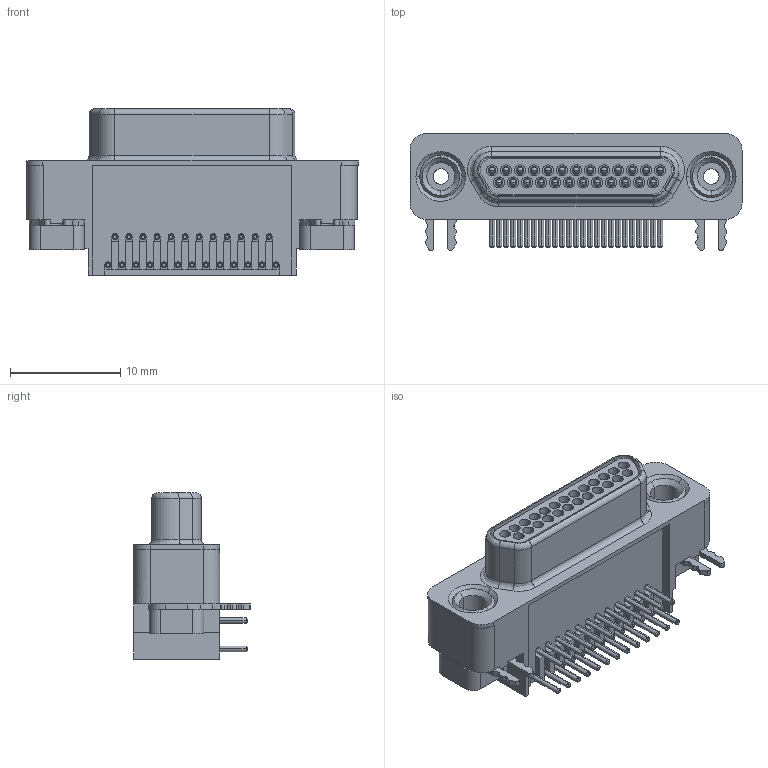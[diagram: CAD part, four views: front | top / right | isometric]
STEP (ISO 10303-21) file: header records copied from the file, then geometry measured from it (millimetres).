
FILE_DESCRIPTION (( 'STEP AP203' ), '1' );
FILE_NAME ('581-M25-113L461.STEP', '2026-05-15T18:35:22', ( '' ), ( '' ), 'SwSTEP 2.0', 'SolidWorks 2020', '' );
FILE_SCHEMA (( 'CONFIG_CONTROL_DESIGN' ));
Length unit declared in the file: millimetre
Products named in the file (1): 581-M25-113L461
Bounding box: 30.1 x 10.6 x 15.07 mm (x, y, z)
Volume: 2152.7 mm3; surface area: 3891.9 mm2
Topology: 3 solids, 3 shells, 1235 faces, 3515 edges, 2214 vertices
Faces by surface type: plane 592, cylinder 445, bspline 120, cone 78
Entity records: 47022 total; most frequent: CARTESIAN_POINT 15788, ORIENTED_EDGE 6830, DIRECTION 6171, EDGE_CURVE 3415, VERTEX_POINT 2214, AXIS2_PLACEMENT_3D 2141, LINE 1889, VECTOR 1889
